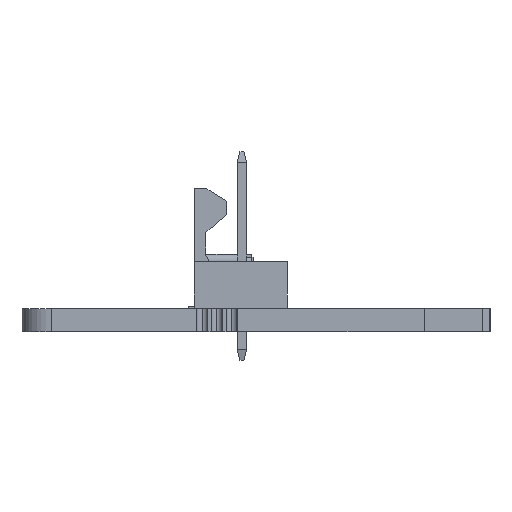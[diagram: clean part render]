
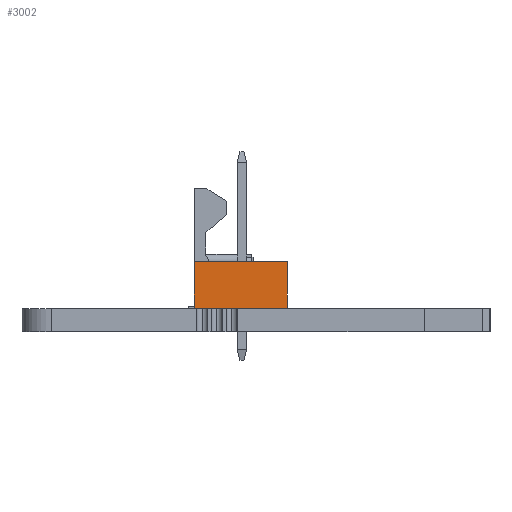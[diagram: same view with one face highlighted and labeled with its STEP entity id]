
A CAD part, left-side view. The second image highlights one B-rep face of the part: STEP entity #3002.
In plain terms, the highlighted planar face has unit normal (-1, 0, 0).
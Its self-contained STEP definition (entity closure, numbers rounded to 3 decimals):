
#1454=PLANE('',#32651);
#3002=ADVANCED_FACE('',(#4872),#1454,.T.);
#4872=FACE_OUTER_BOUND('',#6580,.T.);
#6580=EDGE_LOOP('',(#22918,#22919,#22920,#22921));
#10795=LINE('',#49632,#14346);
#10797=LINE('',#49636,#14348);
#10798=LINE('',#49639,#14349);
#10799=LINE('',#49640,#14350);
#14346=VECTOR('',#40584,1.);
#14348=VECTOR('',#40588,1.);
#14349=VECTOR('',#40589,1.);
#14350=VECTOR('',#40590,1.);
#22918=ORIENTED_EDGE('',*,*,#30263,.F.);
#22919=ORIENTED_EDGE('',*,*,#30264,.F.);
#22920=ORIENTED_EDGE('',*,*,#30261,.T.);
#22921=ORIENTED_EDGE('',*,*,#30265,.T.);
#25958=VERTEX_POINT('',#49631);
#25959=VERTEX_POINT('',#49633);
#25960=VERTEX_POINT('',#49637);
#25961=VERTEX_POINT('',#49638);
#30261=EDGE_CURVE('',#25959,#25958,#10795,.T.);
#30263=EDGE_CURVE('',#25960,#25961,#10797,.T.);
#30264=EDGE_CURVE('',#25959,#25960,#10798,.T.);
#30265=EDGE_CURVE('',#25958,#25961,#10799,.T.);
#32651=AXIS2_PLACEMENT_3D('',#49641,#40591,#40592);
#40584=DIRECTION('',(0.,-1.,0.));
#40588=DIRECTION('',(0.,-1.,0.));
#40589=DIRECTION('',(0.,0.,1.));
#40590=DIRECTION('',(0.,0.,1.));
#40591=DIRECTION('',(-1.,0.,0.));
#40592=DIRECTION('',(0.,1.,0.));
#49631=CARTESIAN_POINT('',(-10.29,2.9,0.025));
#49632=CARTESIAN_POINT('',(-10.29,2.9,0.025));
#49633=CARTESIAN_POINT('',(-10.29,9.25,0.025));
#49636=CARTESIAN_POINT('',(-10.29,2.9,3.205));
#49637=CARTESIAN_POINT('',(-10.29,9.25,3.205));
#49638=CARTESIAN_POINT('',(-10.29,2.9,3.205));
#49639=CARTESIAN_POINT('',(-10.29,9.25,0.025));
#49640=CARTESIAN_POINT('',(-10.29,2.9,0.025));
#49641=CARTESIAN_POINT('',(-10.29,2.9,0.025));
